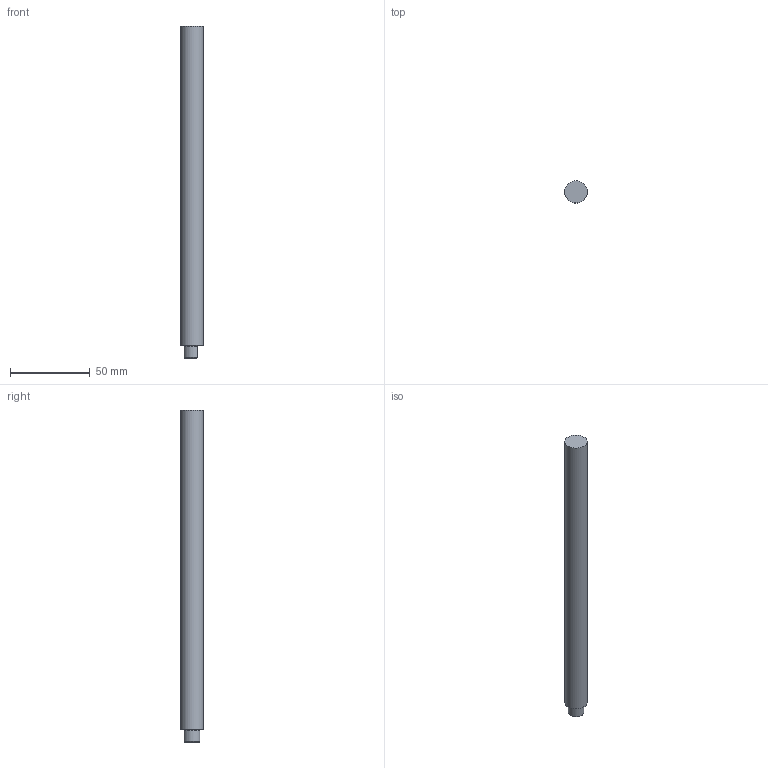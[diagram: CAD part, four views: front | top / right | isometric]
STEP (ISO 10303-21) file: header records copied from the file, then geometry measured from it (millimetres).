
FILE_DESCRIPTION (( 'STEP AP214' ), '1' );
FILE_NAME ('KKPHF Pin C_-_10-200.step', '2024-02-07T08:52:35', ( '' ), ( '' ), 'SwSTEP 2.0', 'SolidWorks 2020', '' );
FILE_SCHEMA (( 'AUTOMOTIVE_DESIGN' ));
Length unit declared in the file: millimetre
Products named in the file (1): KKPHF  Pin C_-_10-200
Bounding box: 14 x 14 x 207.9 mm (x, y, z)
Volume: 31169.5 mm3; surface area: 9497.5 mm2
Topology: 1 solids, 1 shells, 12 faces, 22 edges, 13 vertices
Faces by surface type: plane 5, cylinder 4, cone 2, torus 1
Full cylindrical faces by diameter (mm): 4.2 x1, 14 x1
Entity records: 323 total; most frequent: CARTESIAN_POINT 59, DIRECTION 48, ORIENTED_EDGE 36, AXIS2_PLACEMENT_3D 21, EDGE_CURVE 18, EDGE_LOOP 16, FACE_OUTER_BOUND 14, ADVANCED_FACE 12
